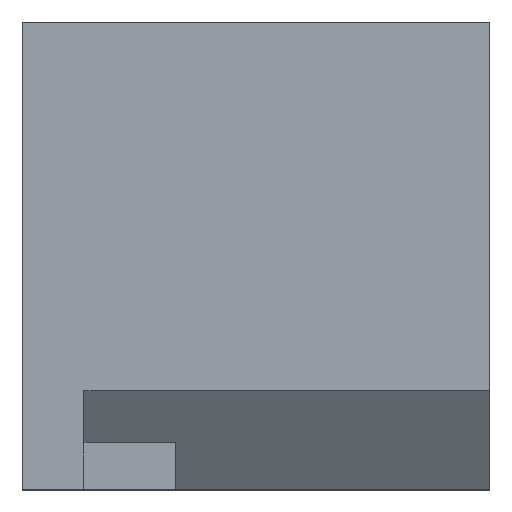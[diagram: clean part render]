
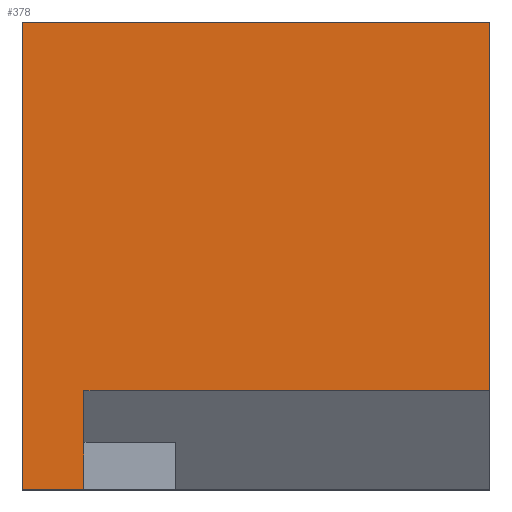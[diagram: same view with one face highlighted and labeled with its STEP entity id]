
A CAD part, top view. The second image highlights one B-rep face of the part: STEP entity #378.
In plain terms, the highlighted planar face has unit normal (0, 0, 1).
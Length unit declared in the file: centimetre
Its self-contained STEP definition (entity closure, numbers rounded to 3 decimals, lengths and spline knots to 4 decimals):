
#15 = CARTESIAN_POINT ( 'NONE',  ( 1000., 1000., 1000. ) ) ;
#21 = CARTESIAN_POINT ( 'NONE',  ( 1000., 1000., 1000. ) ) ;
#29 = CARTESIAN_POINT ( 'NONE',  ( 0., 1000., 1000. ) ) ;
#35 = VERTEX_POINT ( 'NONE', #326 ) ;
#62 = CARTESIAN_POINT ( 'NONE',  ( 0., 0., 1000. ) ) ;
#63 = DIRECTION ( 'NONE',  ( 0., -1., 0. ) ) ;
#71 = ORIENTED_EDGE ( 'NONE', *, *, #180, .T. ) ;
#94 = DIRECTION ( 'NONE',  ( -1., 0., 0. ) ) ;
#98 = DIRECTION ( 'NONE',  ( 1., 0., 0. ) ) ;
#119 = AXIS2_PLACEMENT_3D ( 'NONE', #133, #172, #240 ) ;
#133 = CARTESIAN_POINT ( 'NONE',  ( 0., 0., 1000. ) ) ;
#144 = ORIENTED_EDGE ( 'NONE', *, *, #428, .T. ) ;
#151 = ORIENTED_EDGE ( 'NONE', *, *, #156, .T. ) ;
#156 = EDGE_CURVE ( 'NONE', #246, #35, #244, .T. ) ;
#162 = VECTOR ( 'NONE', #98, 100. ) ;
#168 = LINE ( 'NONE', #454, #162 ) ;
#172 = DIRECTION ( 'NONE',  ( 0., 0., 1. ) ) ;
#177 = LINE ( 'NONE', #29, #247 ) ;
#180 = EDGE_CURVE ( 'NONE', #421, #381, #419, .T. ) ;
#183 = ORIENTED_EDGE ( 'NONE', *, *, #369, .T. ) ;
#195 = VECTOR ( 'NONE', #462, 100. ) ;
#234 = CARTESIAN_POINT ( 'NONE',  ( 0., 1000., 1000. ) ) ;
#236 = CARTESIAN_POINT ( 'NONE',  ( 0., 0., 1000. ) ) ;
#240 = DIRECTION ( 'NONE',  ( 1., 0., 0. ) ) ;
#244 = LINE ( 'NONE', #236, #195 ) ;
#245 = CARTESIAN_POINT ( 'NONE',  ( 131.8202, 210.8823, 1000. ) ) ;
#246 = VERTEX_POINT ( 'NONE', #62 ) ;
#247 = VECTOR ( 'NONE', #63, 100. ) ;
#271 = EDGE_LOOP ( 'NONE', ( #144, #183, #71, #275, #151, #294 ) ) ;
#275 = ORIENTED_EDGE ( 'NONE', *, *, #281, .T. ) ;
#280 = CARTESIAN_POINT ( 'NONE',  ( 0., 1000., 1000. ) ) ;
#281 = EDGE_CURVE ( 'NONE', #381, #246, #177, .T. ) ;
#294 = ORIENTED_EDGE ( 'NONE', *, *, #465, .F. ) ;
#304 = FACE_OUTER_BOUND ( 'NONE', #271, .T. ) ;
#322 = VECTOR ( 'NONE', #331, 100. ) ;
#323 = VERTEX_POINT ( 'NONE', #377 ) ;
#324 = VECTOR ( 'NONE', #358, 100. ) ;
#326 = CARTESIAN_POINT ( 'NONE',  ( 131.8202, 0., 1000. ) ) ;
#331 = DIRECTION ( 'NONE',  ( 0., -1., 0. ) ) ;
#344 = LINE ( 'NONE', #21, #324 ) ;
#358 = DIRECTION ( 'NONE',  ( 0., 1., 0. ) ) ;
#359 = VERTEX_POINT ( 'NONE', #245 ) ;
#362 = VECTOR ( 'NONE', #94, 100. ) ;
#369 = EDGE_CURVE ( 'NONE', #323, #421, #344, .T. ) ;
#377 = CARTESIAN_POINT ( 'NONE',  ( 1000., 210.8823, 1000. ) ) ;
#378 = ADVANCED_FACE ( 'NONE', ( #304 ), #380, .T. ) ;
#380 = PLANE ( 'NONE',  #119 ) ;
#381 = VERTEX_POINT ( 'NONE', #280 ) ;
#392 = LINE ( 'NONE', #437, #322 ) ;
#419 = LINE ( 'NONE', #234, #362 ) ;
#421 = VERTEX_POINT ( 'NONE', #15 ) ;
#428 = EDGE_CURVE ( 'NONE', #359, #323, #168, .T. ) ;
#437 = CARTESIAN_POINT ( 'NONE',  ( 131.8202, 0., 1000. ) ) ;
#454 = CARTESIAN_POINT ( 'NONE',  ( 131.8202, 210.8823, 1000. ) ) ;
#462 = DIRECTION ( 'NONE',  ( 1., 0., 0. ) ) ;
#465 = EDGE_CURVE ( 'NONE', #359, #35, #392, .T. ) ;
